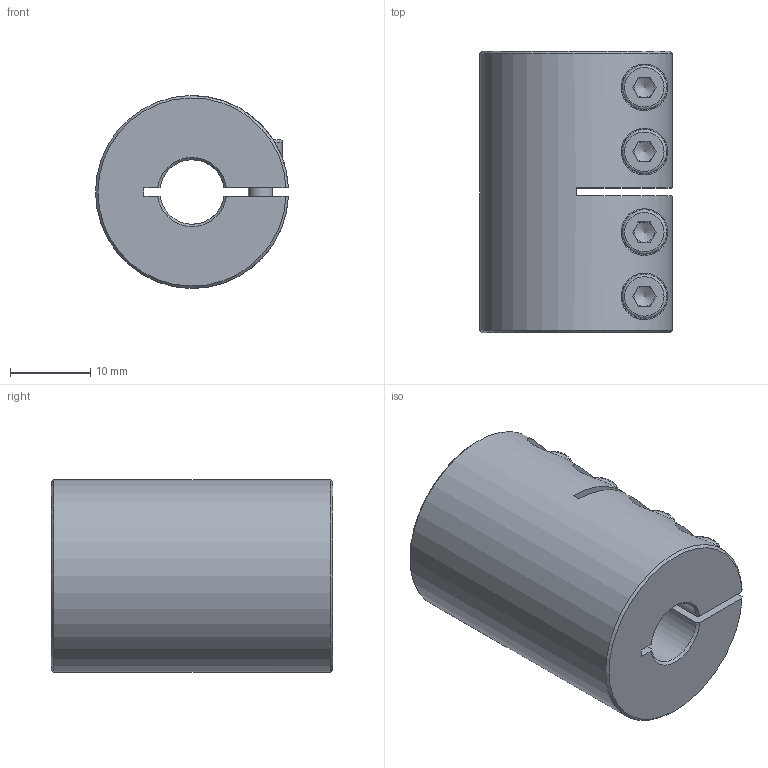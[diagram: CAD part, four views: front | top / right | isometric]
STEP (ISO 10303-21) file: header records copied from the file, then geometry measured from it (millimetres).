
FILE_DESCRIPTION( ( 'Unknown' ), '1' );
FILE_NAME( 'K:/Konstruktion/Fertigungszeichnungen/Schalenkupplung/KBST/KBST-8.stp', 'Unknown', ( 'Unknown' ), ( 'Unknown' ), 'PSStep 16.0.42', 'Unknown', ' ' );
FILE_SCHEMA( ( 'AUTOMOTIVE_DESIGN { 1 0 10303 214 1 1 1 1 }' ) );
Length unit declared in the file: millimetre
Products named in the file (3): Assem1; Socket Head Cap Screw_DIN_DIN 912 M3 x 10 --- 10N_2; KBST-8
Assembly tree (5 placements, depth 2):
  Assem1
    Socket Head Cap Screw_DIN_DIN 912 M3 x 10 --- 10N_2  x4
    KBST-8
Bounding box: 23.99 x 35 x 24 mm (x, y, z)
Volume: 13315.5 mm3; surface area: 6616.3 mm2
Topology: 5 solids, 5 shells, 128 faces, 290 edges, 184 vertices
Faces by surface type: plane 79, cylinder 27, cone 14, torus 8
Full cylindrical faces by diameter (mm): 2.459 x4, 3 x4, 3.2 x4, 5.5 x4, 5.8 x4
Entity records: 2708 total; most frequent: CARTESIAN_POINT 764, DIRECTION 290, ORIENTED_EDGE 254, EDGE_CURVE 127, AXIS2_PLACEMENT_3D 116, EDGE_LOOP 100, VERTEX_POINT 94, FACE_OUTER_BOUND 77
